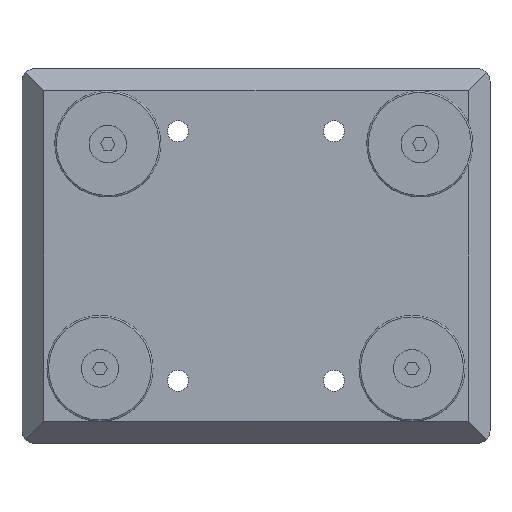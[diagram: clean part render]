
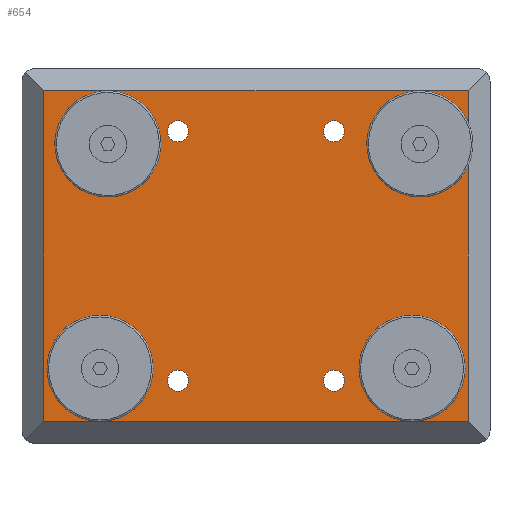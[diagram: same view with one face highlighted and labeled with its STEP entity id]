
A CAD part, front view. The second image highlights one B-rep face of the part: STEP entity #654.
In plain terms, the highlighted planar face has unit normal (0, -1, 0).
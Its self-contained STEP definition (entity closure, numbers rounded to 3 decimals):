
#654=ADVANCED_FACE('',(#924,#925,#926,#927,#928,#929,#930,#931,#932),#933,.T.);
#924=FACE_BOUND('',#1570,.T.);
#925=FACE_BOUND('',#1571,.T.);
#926=FACE_BOUND('',#1572,.T.);
#927=FACE_BOUND('',#1573,.T.);
#928=FACE_BOUND('',#1574,.T.);
#929=FACE_BOUND('',#1575,.T.);
#930=FACE_BOUND('',#1576,.T.);
#931=FACE_BOUND('',#1577,.T.);
#932=FACE_OUTER_BOUND('',#1578,.T.);
#933=PLANE('',#1579);
#1570=EDGE_LOOP('',(#2231));
#1571=EDGE_LOOP('',(#2232));
#1572=EDGE_LOOP('',(#2233));
#1573=EDGE_LOOP('',(#2234));
#1574=EDGE_LOOP('',(#2235));
#1575=EDGE_LOOP('',(#2236));
#1576=EDGE_LOOP('',(#2237));
#1577=EDGE_LOOP('',(#2238));
#1578=EDGE_LOOP('',(#2239,#2240,#2241,#2242));
#1579=AXIS2_PLACEMENT_3D('',#2243,#2244,#2245);
#2231=ORIENTED_EDGE('',*,*,#4038,.F.);
#2232=ORIENTED_EDGE('',*,*,#4039,.F.);
#2233=ORIENTED_EDGE('',*,*,#4040,.F.);
#2234=ORIENTED_EDGE('',*,*,#4041,.F.);
#2235=ORIENTED_EDGE('',*,*,#4042,.F.);
#2236=ORIENTED_EDGE('',*,*,#4043,.F.);
#2237=ORIENTED_EDGE('',*,*,#4044,.F.);
#2238=ORIENTED_EDGE('',*,*,#4045,.F.);
#2239=ORIENTED_EDGE('',*,*,#4046,.T.);
#2240=ORIENTED_EDGE('',*,*,#4047,.T.);
#2241=ORIENTED_EDGE('',*,*,#4048,.F.);
#2242=ORIENTED_EDGE('',*,*,#4049,.T.);
#2243=CARTESIAN_POINT('',(70.176,-16.0,-56.));
#2244=DIRECTION('',(0.,-1.0,0.));
#2245=DIRECTION('',(1.0,0.,0.));
#4038=EDGE_CURVE('',#4556,#4556,#4557,.T.);
#4039=EDGE_CURVE('',#4558,#4558,#4559,.T.);
#4040=EDGE_CURVE('',#4560,#4560,#4561,.T.);
#4041=EDGE_CURVE('',#4562,#4562,#4563,.T.);
#4042=EDGE_CURVE('',#4564,#4564,#4565,.T.);
#4043=EDGE_CURVE('',#4566,#4566,#4567,.T.);
#4044=EDGE_CURVE('',#4568,#4568,#4569,.T.);
#4045=EDGE_CURVE('',#4570,#4570,#4571,.T.);
#4046=EDGE_CURVE('',#4572,#4573,#4574,.T.);
#4047=EDGE_CURVE('',#4573,#4575,#4576,.T.);
#4048=EDGE_CURVE('',#4577,#4575,#4578,.T.);
#4049=EDGE_CURVE('',#4577,#4572,#4579,.T.);
#4556=VERTEX_POINT('',#5428);
#4557=CIRCLE('',#5429,5.0);
#4558=VERTEX_POINT('',#5430);
#4559=CIRCLE('',#5431,5.0);
#4560=VERTEX_POINT('',#5432);
#4561=CIRCLE('',#5433,5.0);
#4562=VERTEX_POINT('',#5434);
#4563=CIRCLE('',#5435,5.0);
#4564=VERTEX_POINT('',#5436);
#4565=CIRCLE('',#5437,3.375);
#4566=VERTEX_POINT('',#5438);
#4567=CIRCLE('',#5439,3.375);
#4568=VERTEX_POINT('',#5440);
#4569=CIRCLE('',#5441,3.375);
#4570=VERTEX_POINT('',#5442);
#4571=CIRCLE('',#5443,3.375);
#4572=VERTEX_POINT('',#5444);
#4573=VERTEX_POINT('',#5445);
#4574=LINE('',#5446,#5447);
#4575=VERTEX_POINT('',#5448);
#4576=LINE('',#5449,#5450);
#4577=VERTEX_POINT('',#5451);
#4578=LINE('',#5452,#5453);
#4579=LINE('',#5454,#5455);
#5428=CARTESIAN_POINT('',(-50.824,-16.0,-41.02));
#5429=AXIS2_PLACEMENT_3D('',#7058,#7059,#7060);
#5430=CARTESIAN_POINT('',(-50.824,-16.0,31.02));
#5431=AXIS2_PLACEMENT_3D('',#7061,#7062,#7063);
#5432=CARTESIAN_POINT('',(49.176,-16.0,31.02));
#5433=AXIS2_PLACEMENT_3D('',#7064,#7065,#7066);
#5434=CARTESIAN_POINT('',(49.176,-16.0,-41.02));
#5435=AXIS2_PLACEMENT_3D('',#7067,#7068,#7069);
#5436=CARTESIAN_POINT('',(-25.824,-16.0,-43.375));
#5437=AXIS2_PLACEMENT_3D('',#7070,#7071,#7072);
#5438=CARTESIAN_POINT('',(-25.824,-16.0,36.625));
#5439=AXIS2_PLACEMENT_3D('',#7073,#7074,#7075);
#5440=CARTESIAN_POINT('',(24.176,-16.0,36.625));
#5441=AXIS2_PLACEMENT_3D('',#7076,#7077,#7078);
#5442=CARTESIAN_POINT('',(24.176,-16.0,-43.375));
#5443=AXIS2_PLACEMENT_3D('',#7079,#7080,#7081);
#5444=CARTESIAN_POINT('',(67.176,-16.0,53.0));
#5445=CARTESIAN_POINT('',(-68.824,-16.0,53.0));
#5446=CARTESIAN_POINT('',(148.551,-16.0,53.0));
#5447=VECTOR('',#7082,1.0);
#5448=CARTESIAN_POINT('',(-68.824,-16.0,-53.));
#5449=CARTESIAN_POINT('',(-68.824,-16.0,-53.));
#5450=VECTOR('',#7083,1.0);
#5451=CARTESIAN_POINT('',(67.176,-16.0,-53.));
#5452=CARTESIAN_POINT('',(148.551,-16.0,-53.));
#5453=VECTOR('',#7084,1.0);
#5454=CARTESIAN_POINT('',(67.176,-16.0,53.0));
#5455=VECTOR('',#7085,1.0);
#7058=CARTESIAN_POINT('',(-50.824,-16.0,-36.02));
#7059=DIRECTION('',(0.,-1.0,0.));
#7060=DIRECTION('',(0.,0.,-1.0));
#7061=CARTESIAN_POINT('',(-50.824,-16.0,36.02));
#7062=DIRECTION('',(0.,-1.0,0.));
#7063=DIRECTION('',(0.,0.,-1.0));
#7064=CARTESIAN_POINT('',(49.176,-16.0,36.02));
#7065=DIRECTION('',(0.,-1.0,0.));
#7066=DIRECTION('',(0.,0.,-1.0));
#7067=CARTESIAN_POINT('',(49.176,-16.0,-36.02));
#7068=DIRECTION('',(0.,-1.0,0.));
#7069=DIRECTION('',(0.,0.,-1.0));
#7070=CARTESIAN_POINT('',(-25.824,-16.0,-40.0));
#7071=DIRECTION('',(0.,-1.0,0.));
#7072=DIRECTION('',(0.,0.,-1.0));
#7073=CARTESIAN_POINT('',(-25.824,-16.0,40.0));
#7074=DIRECTION('',(0.,-1.0,0.));
#7075=DIRECTION('',(0.,0.,-1.0));
#7076=CARTESIAN_POINT('',(24.176,-16.0,40.0));
#7077=DIRECTION('',(0.,-1.0,0.));
#7078=DIRECTION('',(0.,0.,-1.0));
#7079=CARTESIAN_POINT('',(24.176,-16.0,-40.0));
#7080=DIRECTION('',(0.,-1.0,0.));
#7081=DIRECTION('',(0.,0.,-1.0));
#7082=DIRECTION('',(-1.0,0.,0.));
#7083=DIRECTION('',(0.,0.0,-1.0));
#7084=DIRECTION('',(-1.0,0.,0.));
#7085=DIRECTION('',(0.,0.0,1.0));
